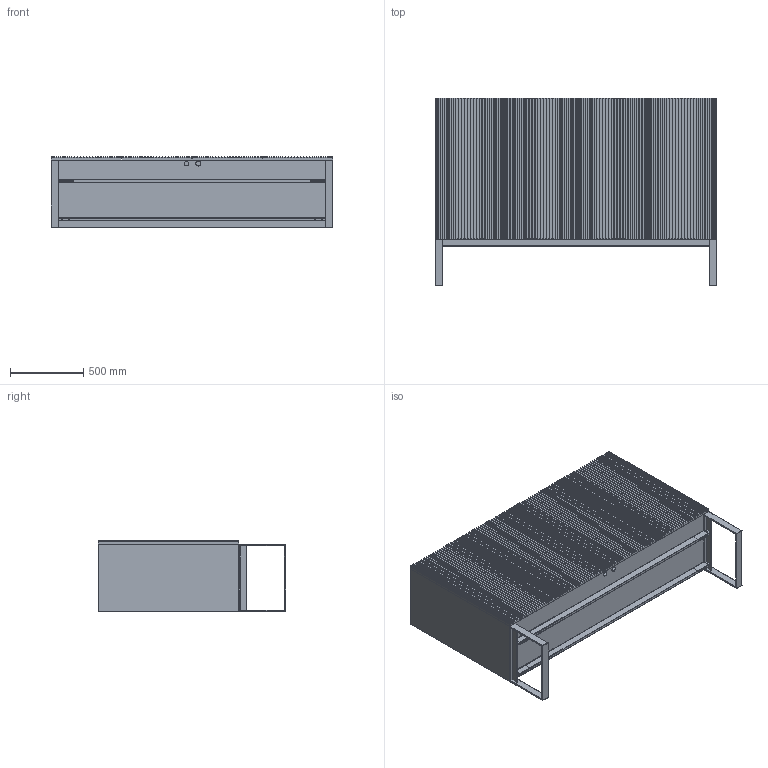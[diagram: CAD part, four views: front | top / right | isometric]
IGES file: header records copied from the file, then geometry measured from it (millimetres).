
Start section: SolidWorks IGES file using analytic representation for surfaces
Global section: file name: C:\Users\serena.trevisiol\Desktop\Nuova cartella\CARLOS cm 192X49X128H.IGS; native system: SolidWorks 2016; preprocessor: SolidWorks 2016; author: serena.trevisiol; date: 160609.090929; units: millimetre
Bounding box: 1920 x 1280 x 484 mm (x, y, z)
Surface area: 22027824.2 mm2 (no closed solid volume)
Topology: 0 solids, 0 shells, 1508 faces, 9695 edges, 9687 vertices
Faces by surface type: bspline 1413, revolution 95
